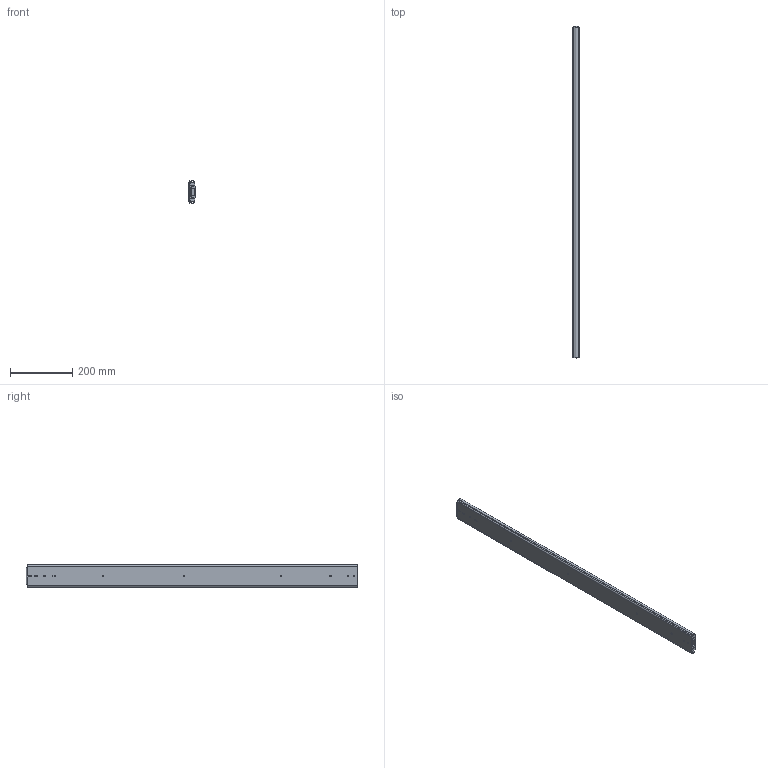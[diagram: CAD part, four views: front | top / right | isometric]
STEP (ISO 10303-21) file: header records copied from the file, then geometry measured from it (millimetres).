
FILE_DESCRIPTION(/* description */ ('Unknown'),/* implementation_level */ '2;1');
FILE_NAME(/* name */ '76J01-42 close',/* time_stamp */ '2024-07-26T16:25:42+08:00',/* author */ ('Unknown'),/* organization */ ('Unknown'),/* preprocessor_version */ 'ST-DEVELOPER v18.104',/* originating_system */ 'Solid Edge',/* authorisation */ 'Unknown');
FILE_SCHEMA (('AUTOMOTIVE_DESIGN {1 0 10303 214 3 1 1}'));
Length unit declared in the file: millimetre
Products named in the file (4): 76J01-42 close; 76J01 42 inch 內 ; 76J01 42 ¦Tch å…§ç’©î¸ˆ; 76J01 42 ｦT倶ｸｭ
Assembly tree (3 placements, depth 2):
  76J01-42 close
    76J01 42 inch 內 
    76J01 42 ¦Tch å…§ç’©î¸ˆ
    76J01 42 ｦT倶ｸｭ
Bounding box: 19.3 x 1066.8 x 76.76 mm (x, y, z)
Volume: 840416.3 mm3; surface area: 522984.9 mm2
Topology: 3 solids, 3 shells, 194 faces, 599 edges, 405 vertices
Faces by surface type: plane 104, cylinder 90
Full cylindrical faces by diameter (mm): 5.2 x15, 7.1 x2
Entity records: 7096 total; most frequent: CARTESIAN_POINT 1154, DIRECTION 1141, ORIENTED_EDGE 1130, EDGE_CURVE 565, VERTEX_POINT 388, LINE 383, VECTOR 383, AXIS2_PLACEMENT_3D 379
